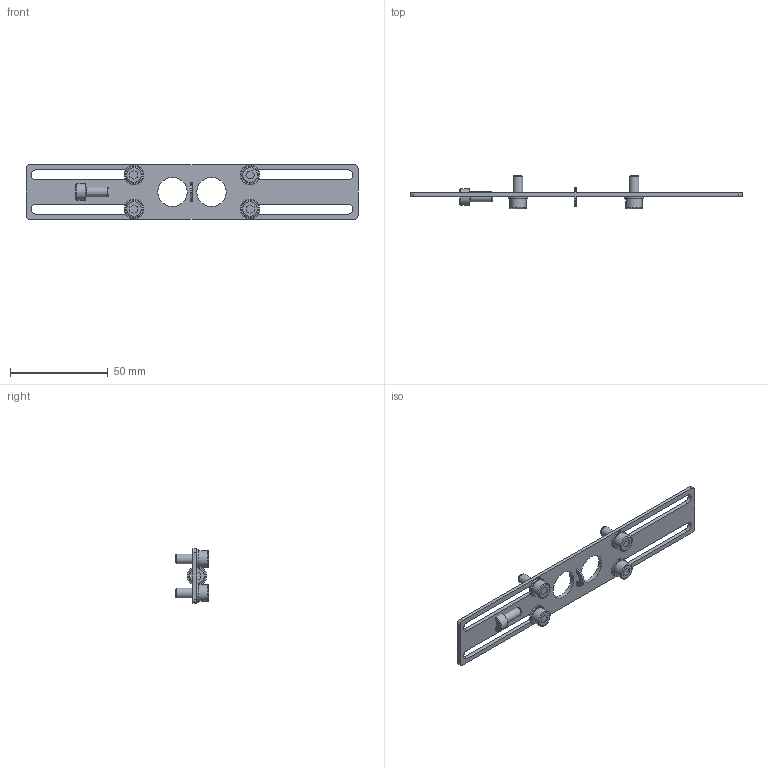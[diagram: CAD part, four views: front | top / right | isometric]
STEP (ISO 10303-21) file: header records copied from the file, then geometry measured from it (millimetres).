
FILE_DESCRIPTION( ( 'Unknown' ), '1' );
FILE_NAME( 'C:/Users/Fabrizio/Desktop/DISEGNI ACCESSORI FP SOLIDEDGE/CA.EPL.25.170.stp', 'Unknown', ( 'Unknown' ), ( 'Unknown' ), 'PSStep 13.0', 'Unknown', ' ' );
FILE_SCHEMA( ( 'AUTOMOTIVE_DESIGN { 1 0 10303 214 1 1 1 1 }' ) );
Length unit declared in the file: millimetre
Products named in the file (4): Assem1; EPL.25.170; rondellaDIN 125 - A 5.3; V-tcei M  5 x 12
Bounding box: 170 x 17 x 28 mm (x, y, z)
Volume: 15935.1 mm3; surface area: 19853 mm2
Topology: 12 solids, 12 shells, 156 faces, 350 edges, 228 vertices
Faces by surface type: plane 88, cylinder 48, cone 10, torus 10
Full cylindrical faces by diameter (mm): 5 x5, 5.3 x5, 8.5 x5, 10 x5, 15 x4
Entity records: 1636 total; most frequent: DIRECTION 262, CARTESIAN_POINT 240, ORIENTED_EDGE 212, EDGE_CURVE 106, AXIS2_PLACEMENT_3D 98, VERTEX_POINT 76, EDGE_LOOP 74, LINE 66
